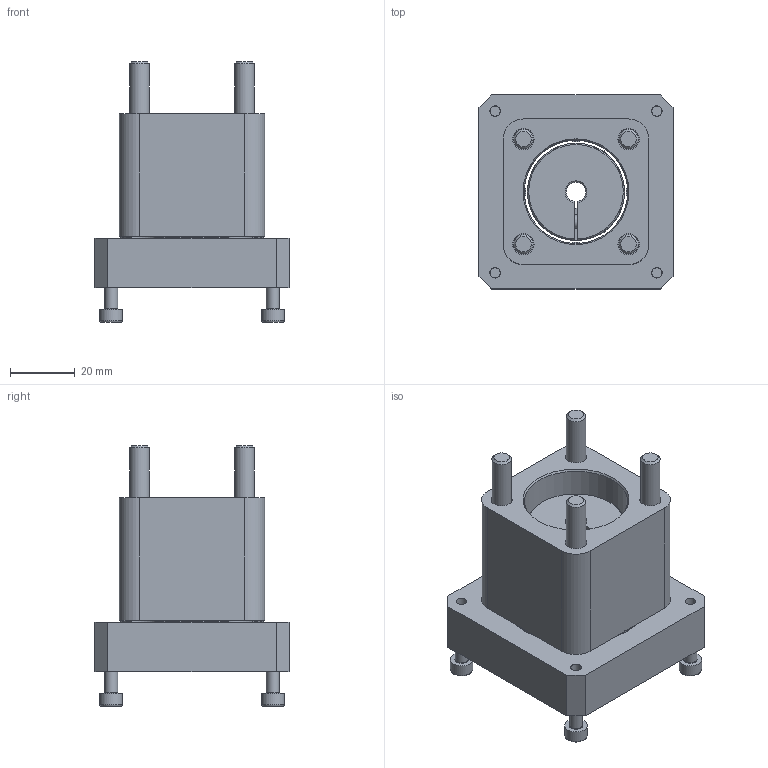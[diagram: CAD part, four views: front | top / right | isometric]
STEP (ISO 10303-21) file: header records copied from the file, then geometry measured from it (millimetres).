
FILE_DESCRIPTION(/* description */ ('EAMK-A O - Coupling housing'),/* implementation_level */ '2;1');
FILE_NAME(/* name */ 'C:\STORE\ホームページ用データ\\X2\30E230FC30BF53D64ED830AD30C330C8\X0\_2017＿2017.12.14_\X2\8A2D8A08590966F45206\X0\\3D_STEP\J08308A.stp',/* time_stamp */ '2017-12-21T17:19:01+09:00',/* author */ ('jp0tot'),/* organization */ (''),/* preprocessor_version */ 'ST-DEVELOPER v15.6',/* originating_system */ 'Autodesk Inventor 2015',/* authorisation */ '');
FILE_SCHEMA (('AUTOMOTIVE_DESIGN { 1 0 10303 214 3 1 1 }'));
Length unit declared in the file: millimetre
Products named in the file (7): 551006_EAMK_A_D32_44_1O_; DIN_912___M6x30_F_; 551006_EAMK_A_D32_44; 562681 EAMC-30-32-6-10HIHI; J08126B; コピー版 JIS B 1176 - M4 x 15; J08308A
Bounding box: 60 x 60 x 80.5 mm (x, y, z)
Volume: 98616.7 mm3; surface area: 45530.9 mm2
Topology: 15 solids, 15 shells, 472 faces, 1143 edges, 725 vertices
Faces by surface type: plane 242, cylinder 122, cone 86, torus 22
Full cylindrical faces by diameter (mm): 2 x12, 3.242 x10, 4 x10, 4.5 x4, 6 x4, 6.6 x4, 7 x8, 10 x4, 11 x4, 14.2 x1, 32 x2, 44 x1
Entity records: 8814 total; most frequent: CARTESIAN_POINT 1786, DIRECTION 1500, ORIENTED_EDGE 1312, EDGE_CURVE 656, AXIS2_PLACEMENT_3D 596, VERTEX_POINT 464, EDGE_LOOP 406, LINE 308
